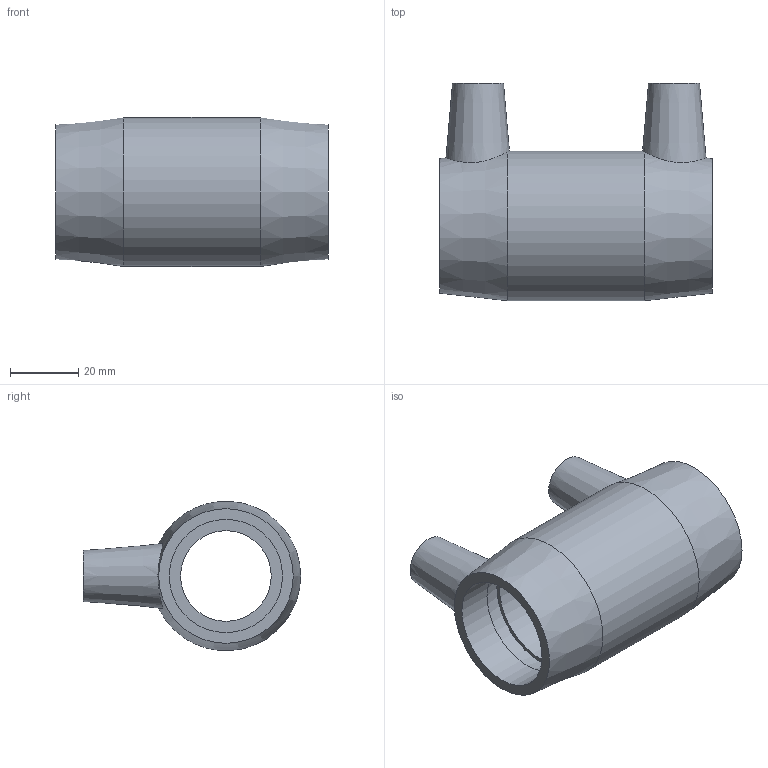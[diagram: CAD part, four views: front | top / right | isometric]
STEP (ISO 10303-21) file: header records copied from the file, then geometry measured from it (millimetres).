
FILE_DESCRIPTION(/* description */ ('PLASSON CTS COUPLER 1'''''),/* implementation_level */ '2;1');
FILE_NAME(/* name */ 'C:\Dropbox\KIMPROJECTS-Inventor 2019\99-16-3568-Processing Inch\ASTM ElectroFusion 2021\5901U\5901U004010.ipt.stp',/* time_stamp */ '2021-08-30T09:49:27+03:00',/* author */ ('KIM'),/* organization */ (''),/* preprocessor_version */ 'ST-DEVELOPER v17.2',/* originating_system */ 'Autodesk Inventor 2019',/* authorisation */ '');
FILE_SCHEMA (('AUTOMOTIVE_DESIGN { 1 0 10303 214 3 1 1 }'));
Length unit declared in the file: inch
Products named in the file (1): 5901U004010
Bounding box: 80.01 x 63.88 x 43.85 mm (x, y, z)
Volume: 53447.6 mm3; surface area: 24068 mm2
Topology: 1 solids, 1 shells, 30 faces, 68 edges, 48 vertices
Faces by surface type: plane 12, cylinder 10, cone 8
Full cylindrical faces by diameter (mm): 4 x2, 10 x2, 26.64 x1, 33.3 x4, 43.942 x1
Entity records: 991 total; most frequent: CARTESIAN_POINT 227, DIRECTION 166, ORIENTED_EDGE 136, AXIS2_PLACEMENT_3D 75, EDGE_CURVE 68, VERTEX_POINT 48, CIRCLE 44, EDGE_LOOP 40
